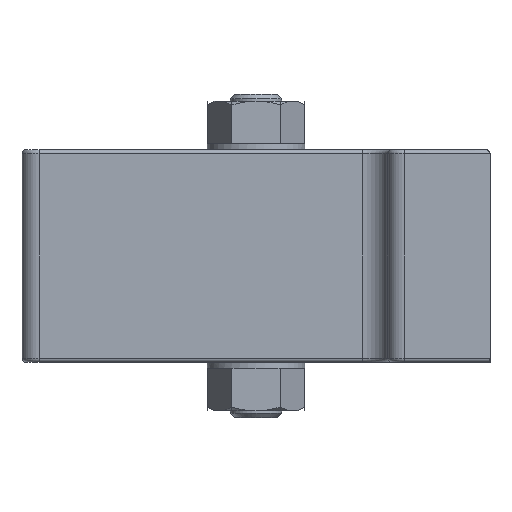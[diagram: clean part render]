
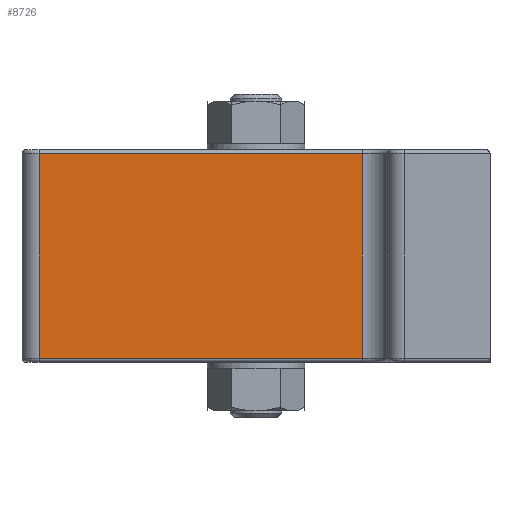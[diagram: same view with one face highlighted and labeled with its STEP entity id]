
A CAD part, left-side view. The second image highlights one B-rep face of the part: STEP entity #8726.
In plain terms, the highlighted planar face has unit normal (-1, 0, 0).
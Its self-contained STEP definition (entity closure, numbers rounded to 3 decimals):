
#8407=CARTESIAN_POINT('',(-27.5,25.5,-12.0));
#8408=VERTEX_POINT('',#8407);
#8473=CARTESIAN_POINT('',(-27.5,-12.5,-12.0));
#8474=VERTEX_POINT('',#8473);
#8482=CARTESIAN_POINT('',(-27.5,-12.5,-12.0));
#8483=DIRECTION('',(0.0,1.0,0.0));
#8484=VECTOR('',#8483,38.);
#8485=LINE('',#8482,#8484);
#8486=EDGE_CURVE('',#8474,#8408,#8485,.T.);
#8696=CARTESIAN_POINT('',(-27.5,-12.5,0.0));
#8697=DIRECTION('',(-1.0,0.0,0.0));
#8698=DIRECTION('',(0.0,0.0,1.0));
#8699=AXIS2_PLACEMENT_3D('',#8696,#8697,#8698);
#8700=PLANE('',#8699);
#8701=ORIENTED_EDGE('',*,*,#8486,.F.);
#8702=CARTESIAN_POINT('',(-27.5,-12.5,12.0));
#8703=VERTEX_POINT('',#8702);
#8704=CARTESIAN_POINT('',(-27.5,-12.5,12.0));
#8705=DIRECTION('',(0.0,0.0,-1.0));
#8706=VECTOR('',#8705,24.0);
#8707=LINE('',#8704,#8706);
#8708=EDGE_CURVE('',#8703,#8474,#8707,.T.);
#8709=ORIENTED_EDGE('',*,*,#8708,.F.);
#8710=CARTESIAN_POINT('',(-27.5,25.5,12.0));
#8711=VERTEX_POINT('',#8710);
#8712=CARTESIAN_POINT('',(-27.5,25.5,12.0));
#8713=DIRECTION('',(0.0,-1.0,0.0));
#8714=VECTOR('',#8713,38.);
#8715=LINE('',#8712,#8714);
#8716=EDGE_CURVE('',#8711,#8703,#8715,.T.);
#8717=ORIENTED_EDGE('',*,*,#8716,.F.);
#8718=CARTESIAN_POINT('',(-27.5,25.5,12.0));
#8719=DIRECTION('',(0.0,0.0,-1.0));
#8720=VECTOR('',#8719,24.0);
#8721=LINE('',#8718,#8720);
#8722=EDGE_CURVE('',#8711,#8408,#8721,.T.);
#8723=ORIENTED_EDGE('',*,*,#8722,.T.);
#8724=EDGE_LOOP('',(#8701,#8709,#8717,#8723));
#8725=FACE_OUTER_BOUND('',#8724,.T.);
#8726=ADVANCED_FACE('',(#8725),#8700,.T.);
